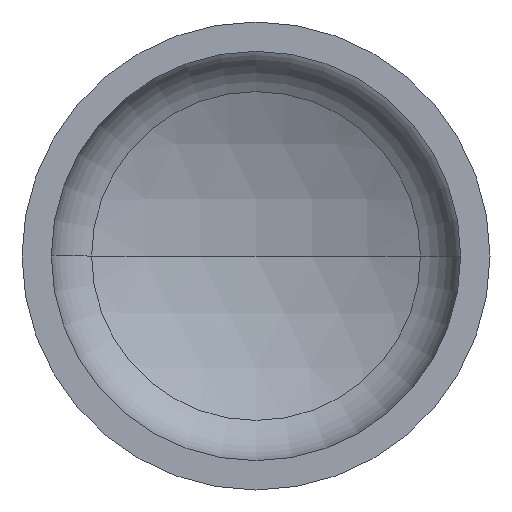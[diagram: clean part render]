
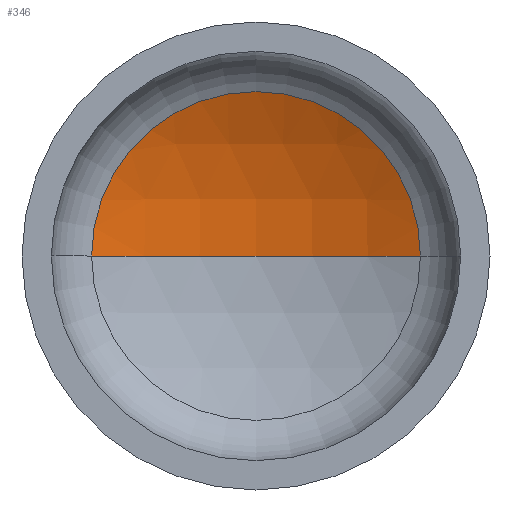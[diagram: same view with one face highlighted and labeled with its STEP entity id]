
A CAD part, front view. The second image highlights one B-rep face of the part: STEP entity #346.
In plain terms, the highlighted spherical face has radius 1200 mm.
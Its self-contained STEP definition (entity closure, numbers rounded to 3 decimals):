
#12 = AXIS2_PLACEMENT_3D ( 'NONE', #278, #22, #16 ) ;
#14 = AXIS2_PLACEMENT_3D ( 'NONE', #81, #287, #113 ) ;
#15 = AXIS2_PLACEMENT_3D ( 'NONE', #154, #158, #137 ) ;
#16 = DIRECTION ( 'NONE',  ( 1., 0., 0. ) ) ;
#22 = DIRECTION ( 'NONE',  ( 0., 0., 1. ) ) ;
#48 = EDGE_CURVE ( 'NONE', #394, #53, #60, .T. ) ;
#50 = EDGE_CURVE ( 'NONE', #345, #394, #361, .T. ) ;
#52 = EDGE_CURVE ( 'NONE', #345, #53, #210, .T. ) ;
#53 = VERTEX_POINT ( 'NONE', #170 ) ;
#60 = CIRCLE ( 'NONE', #15, 527.01 ) ;
#71 = SPHERICAL_SURFACE ( 'NONE', #189, 1200. ) ;
#81 = CARTESIAN_POINT ( 'NONE',  ( 0., -771.449, 0. ) ) ;
#96 = EDGE_LOOP ( 'NONE', ( #283, #169, #401 ) ) ;
#113 = DIRECTION ( 'NONE',  ( -1., 0., 0. ) ) ;
#117 = CARTESIAN_POINT ( 'NONE',  ( 527.01, 306.632, 0. ) ) ;
#137 = DIRECTION ( 'NONE',  ( 1., 0., 0. ) ) ;
#154 = CARTESIAN_POINT ( 'NONE',  ( 0., 306.632, 0. ) ) ;
#158 = DIRECTION ( 'NONE',  ( 0., -1., 0. ) ) ;
#169 = ORIENTED_EDGE ( 'NONE', *, *, #50, .T. ) ;
#170 = CARTESIAN_POINT ( 'NONE',  ( -527.01, 306.632, 0. ) ) ;
#189 = AXIS2_PLACEMENT_3D ( 'NONE', #261, #407, #238 ) ;
#210 = CIRCLE ( 'NONE', #12, 1200. ) ;
#238 = DIRECTION ( 'NONE',  ( -1., 0., 0. ) ) ;
#261 = CARTESIAN_POINT ( 'NONE',  ( 0., -771.449, 0. ) ) ;
#278 = CARTESIAN_POINT ( 'NONE',  ( 0., -771.449, 0. ) ) ;
#283 = ORIENTED_EDGE ( 'NONE', *, *, #52, .F. ) ;
#287 = DIRECTION ( 'NONE',  ( 0., 0., -1. ) ) ;
#308 = FACE_OUTER_BOUND ( 'NONE', #96, .T. ) ;
#345 = VERTEX_POINT ( 'NONE', #373 ) ;
#346 = ADVANCED_FACE ( 'NONE', ( #308 ), #71, .F. ) ;
#361 = CIRCLE ( 'NONE', #14, 1200. ) ;
#373 = CARTESIAN_POINT ( 'NONE',  ( 0., 428.551, 0. ) ) ;
#394 = VERTEX_POINT ( 'NONE', #117 ) ;
#401 = ORIENTED_EDGE ( 'NONE', *, *, #48, .T. ) ;
#407 = DIRECTION ( 'NONE',  ( 0., 0., -1. ) ) ;
